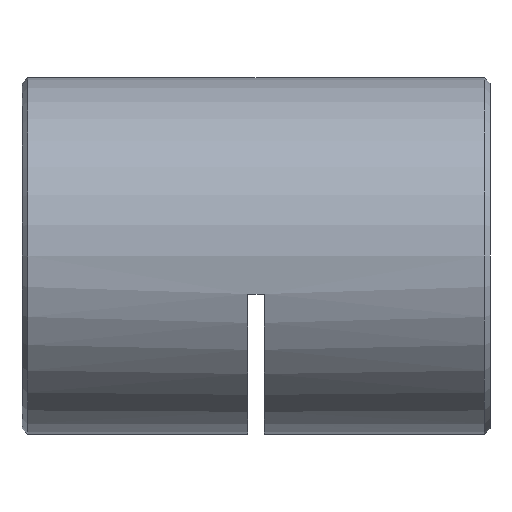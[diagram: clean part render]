
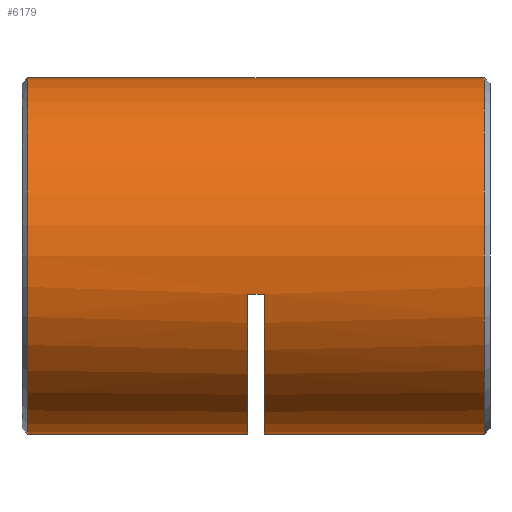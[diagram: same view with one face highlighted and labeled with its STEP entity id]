
A CAD part, left-side view. The second image highlights one B-rep face of the part: STEP entity #6179.
In plain terms, the highlighted cylindrical face has radius 16 mm (diameter 32 mm), a partial arc.
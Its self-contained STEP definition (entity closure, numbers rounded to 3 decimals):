
#5 = CARTESIAN_POINT ( 'NONE',  ( 0., 22., 0. ) ) ;
#101 = FACE_OUTER_BOUND ( 'NONE', #630, .T. ) ;
#222 = EDGE_CURVE ( 'NONE', #2916, #6049, #2091, .T. ) ;
#250 = EDGE_CURVE ( 'NONE', #897, #962, #2221, .T. ) ;
#262 = ORIENTED_EDGE ( 'NONE', *, *, #250, .T. ) ;
#464 = DIRECTION ( 'NONE',  ( 0., -1., 0. ) ) ;
#505 = CARTESIAN_POINT ( 'NONE',  ( 0., 41.75, 0. ) ) ;
#630 = EDGE_LOOP ( 'NONE', ( #5618, #3703, #2530, #5620, #3865, #767, #262, #3848 ) ) ;
#767 = ORIENTED_EDGE ( 'NONE', *, *, #4889, .T. ) ;
#815 = EDGE_CURVE ( 'NONE', #1753, #6049, #2749, .T. ) ;
#819 = VERTEX_POINT ( 'NONE', #1894 ) ;
#897 = VERTEX_POINT ( 'NONE', #5753 ) ;
#962 = VERTEX_POINT ( 'NONE', #3460 ) ;
#980 = CARTESIAN_POINT ( 'NONE',  ( 0., 20.5, 0. ) ) ;
#985 = DIRECTION ( 'NONE',  ( 0., -1., 0. ) ) ;
#1047 = VECTOR ( 'NONE', #1419, 1000. ) ;
#1356 = DIRECTION ( 'NONE',  ( 0., -1., 0. ) ) ;
#1419 = DIRECTION ( 'NONE',  ( 0., -1., 0. ) ) ;
#1435 = DIRECTION ( 'NONE',  ( 0., 0., -1. ) ) ;
#1529 = DIRECTION ( 'NONE',  ( 0., 0., -1. ) ) ;
#1537 = DIRECTION ( 'NONE',  ( 0., 0., -1. ) ) ;
#1555 = EDGE_CURVE ( 'NONE', #2916, #5176, #2162, .T. ) ;
#1753 = VERTEX_POINT ( 'NONE', #2892 ) ;
#1894 = CARTESIAN_POINT ( 'NONE',  ( 0., 41.75, 16. ) ) ;
#2091 = CIRCLE ( 'NONE', #4991, 16. ) ;
#2162 = LINE ( 'NONE', #4216, #3185 ) ;
#2199 = EDGE_CURVE ( 'NONE', #819, #5948, #4310, .T. ) ;
#2221 = LINE ( 'NONE', #4315, #4844 ) ;
#2328 = CARTESIAN_POINT ( 'NONE',  ( -15.632, 22., -3.413 ) ) ;
#2439 = CARTESIAN_POINT ( 'NONE',  ( 0., 42.5, 0. ) ) ;
#2530 = ORIENTED_EDGE ( 'NONE', *, *, #815, .T. ) ;
#2715 = DIRECTION ( 'NONE',  ( 0., -1., 0. ) ) ;
#2749 = LINE ( 'NONE', #4258, #1047 ) ;
#2892 = CARTESIAN_POINT ( 'NONE',  ( 0., 41.75, -16. ) ) ;
#2916 = VERTEX_POINT ( 'NONE', #2328 ) ;
#3185 = VECTOR ( 'NONE', #3747, 1000. ) ;
#3233 = CARTESIAN_POINT ( 'NONE',  ( 0., 42.5, 16. ) ) ;
#3328 = AXIS2_PLACEMENT_3D ( 'NONE', #2439, #985, #1537 ) ;
#3460 = CARTESIAN_POINT ( 'NONE',  ( 0., 0.75, -16. ) ) ;
#3671 = CARTESIAN_POINT ( 'NONE',  ( 0., 0.75, 16. ) ) ;
#3703 = ORIENTED_EDGE ( 'NONE', *, *, #4734, .T. ) ;
#3747 = DIRECTION ( 'NONE',  ( 0., -1., 0. ) ) ;
#3826 = CIRCLE ( 'NONE', #4297, 16. ) ;
#3848 = ORIENTED_EDGE ( 'NONE', *, *, #5548, .T. ) ;
#3865 = ORIENTED_EDGE ( 'NONE', *, *, #1555, .T. ) ;
#4002 = AXIS2_PLACEMENT_3D ( 'NONE', #980, #5693, #6152 ) ;
#4120 = CARTESIAN_POINT ( 'NONE',  ( 0., 22., -16. ) ) ;
#4216 = CARTESIAN_POINT ( 'NONE',  ( -15.632, 21.25, -3.413 ) ) ;
#4258 = CARTESIAN_POINT ( 'NONE',  ( 0., 42.5, -16. ) ) ;
#4270 = DIRECTION ( 'NONE',  ( 0., -1., 0. ) ) ;
#4297 = AXIS2_PLACEMENT_3D ( 'NONE', #5656, #4663, #4688 ) ;
#4310 = LINE ( 'NONE', #3233, #4846 ) ;
#4315 = CARTESIAN_POINT ( 'NONE',  ( 0., 42.5, -16. ) ) ;
#4663 = DIRECTION ( 'NONE',  ( 0., 1., 0. ) ) ;
#4688 = DIRECTION ( 'NONE',  ( 0., 0., 1. ) ) ;
#4734 = EDGE_CURVE ( 'NONE', #819, #1753, #5905, .T. ) ;
#4844 = VECTOR ( 'NONE', #4270, 1000. ) ;
#4846 = VECTOR ( 'NONE', #2715, 1000. ) ;
#4889 = EDGE_CURVE ( 'NONE', #5176, #897, #5506, .T. ) ;
#4991 = AXIS2_PLACEMENT_3D ( 'NONE', #5, #464, #1435 ) ;
#5176 = VERTEX_POINT ( 'NONE', #5752 ) ;
#5506 = CIRCLE ( 'NONE', #4002, 16. ) ;
#5548 = EDGE_CURVE ( 'NONE', #962, #5948, #3826, .T. ) ;
#5618 = ORIENTED_EDGE ( 'NONE', *, *, #2199, .F. ) ;
#5620 = ORIENTED_EDGE ( 'NONE', *, *, #222, .F. ) ;
#5656 = CARTESIAN_POINT ( 'NONE',  ( 0., 0.75, 0. ) ) ;
#5693 = DIRECTION ( 'NONE',  ( 0., -1., 0. ) ) ;
#5730 = CYLINDRICAL_SURFACE ( 'NONE', #3328, 16. ) ;
#5752 = CARTESIAN_POINT ( 'NONE',  ( -15.632, 20.5, -3.413 ) ) ;
#5753 = CARTESIAN_POINT ( 'NONE',  ( 0., 20.5, -16. ) ) ;
#5905 = CIRCLE ( 'NONE', #6041, 16. ) ;
#5948 = VERTEX_POINT ( 'NONE', #3671 ) ;
#6041 = AXIS2_PLACEMENT_3D ( 'NONE', #505, #1356, #1529 ) ;
#6049 = VERTEX_POINT ( 'NONE', #4120 ) ;
#6152 = DIRECTION ( 'NONE',  ( 0., 0., -1. ) ) ;
#6179 = ADVANCED_FACE ( 'NONE', ( #101 ), #5730, .T. ) ;
